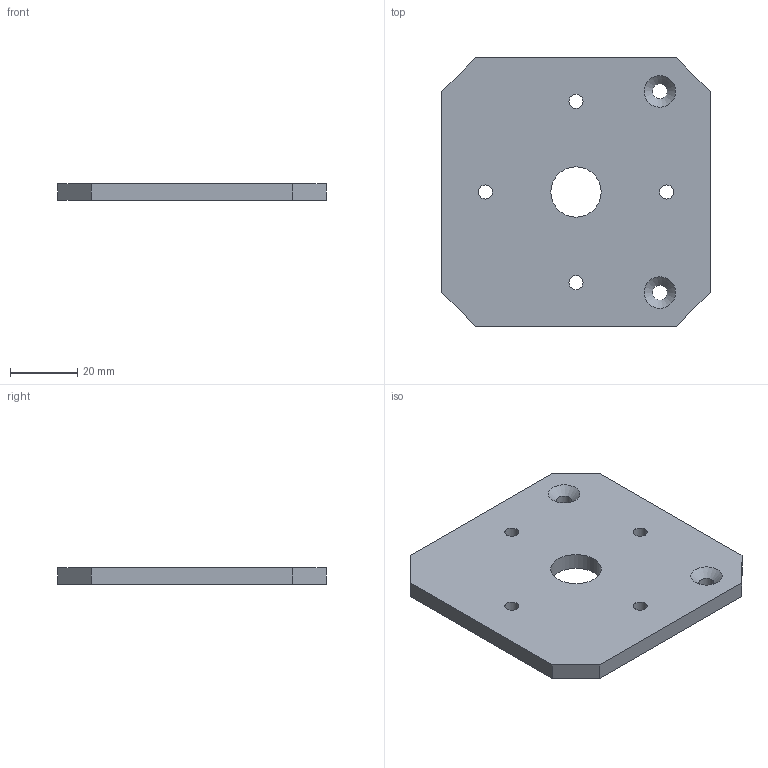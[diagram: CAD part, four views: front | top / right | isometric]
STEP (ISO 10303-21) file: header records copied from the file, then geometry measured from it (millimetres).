
FILE_DESCRIPTION (( 'STEP AP214' ), '1' );
FILE_NAME ('N20990.step', '2024-12-03T16:26:51', ( '' ), ( '' ), 'SwSTEP 2.0', 'SolidWorks 2023', '' );
FILE_SCHEMA (( 'AUTOMOTIVE_DESIGN' ));
Length unit declared in the file: millimetre
Products named in the file (1): N20990
Bounding box: 80 x 80 x 5 mm (x, y, z)
Volume: 29564.6 mm3; surface area: 13970.9 mm2
Topology: 1 solids, 1 shells, 19 faces, 49 edges, 32 vertices
Faces by surface type: plane 10, cylinder 7, cone 2
Full cylindrical faces by diameter (mm): 4.2 x4, 4.5 x2, 15 x1
Entity records: 589 total; most frequent: DIRECTION 96, CARTESIAN_POINT 92, ORIENTED_EDGE 80, EDGE_LOOP 42, EDGE_CURVE 40, AXIS2_PLACEMENT_3D 36, VERTEX_POINT 32, FACE_OUTER_BOUND 26
